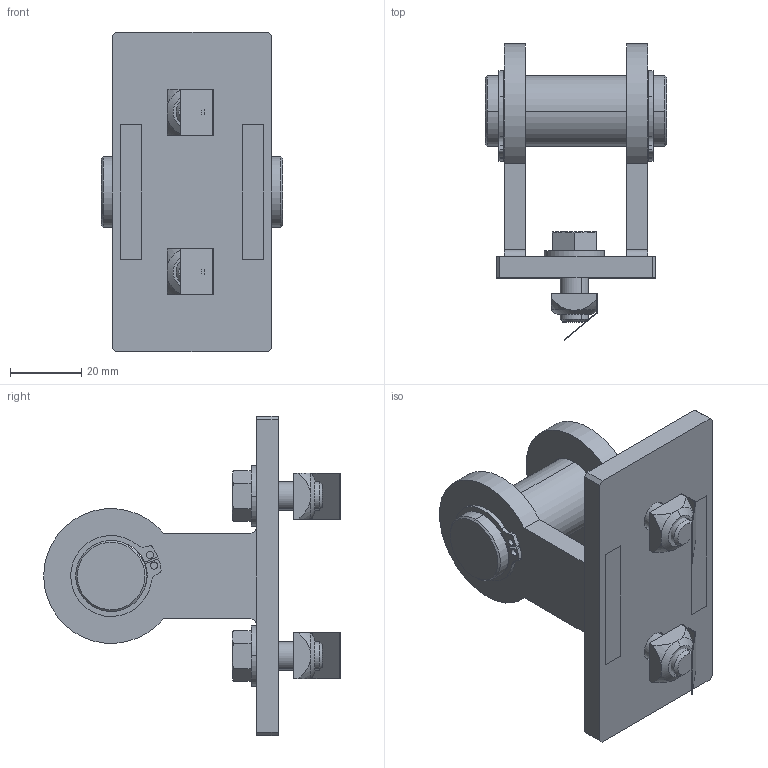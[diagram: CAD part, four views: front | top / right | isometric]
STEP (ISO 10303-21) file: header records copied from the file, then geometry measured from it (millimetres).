
FILE_DESCRIPTION (( 'STEP AP203' ), '1' );
FILE_NAME ('900.100.121.STEP', '2018-02-27T07:50:35', ( '' ), ( '' ), 'SwSTEP 2.0', 'SolidWorks 2016', '' );
FILE_SCHEMA (( 'CONFIG_CONTROL_DESIGN' ));
Length unit declared in the file: millimetre
Products named in the file (7): 900.100.121; 900.100.039_Default<A macchina>; circlip for shafts normal_din_Circlip DIN 471 - 20 x 1.2; 084.302.000 DADI ALUSIC 13x13-1_084.302.009; VITI TE UNI 5739_M8x20 UNI 5739; RONDELLE UNI 6592_8.4x17 UNI 6592; 900.100.021
Assembly tree (10 placements, depth 2):
  900.100.121
    900.100.021
    circlip for shafts normal_din_Circlip DIN 471 - 20 x 1.2  x2
    900.100.039_Default<A macchina>
    RONDELLE UNI 6592_8.4x17 UNI 6592  x2
    VITI TE UNI 5739_M8x20 UNI 5739  x2
    084.302.000 DADI ALUSIC 13x13-1_084.302.009  x2
Bounding box: 51 x 83.51 x 90 mm (x, y, z)
Volume: 64408.5 mm3; surface area: 29339 mm2
Topology: 14 solids, 14 shells, 222 faces, 520 edges, 332 vertices
Faces by surface type: plane 104, cylinder 78, cone 24, torus 16
Entity records: 5217 total; most frequent: CARTESIAN_POINT 886, DIRECTION 776, ORIENTED_EDGE 688, EDGE_CURVE 344, AXIS2_PLACEMENT_3D 298, VERTEX_POINT 220, LINE 180, VECTOR 180
